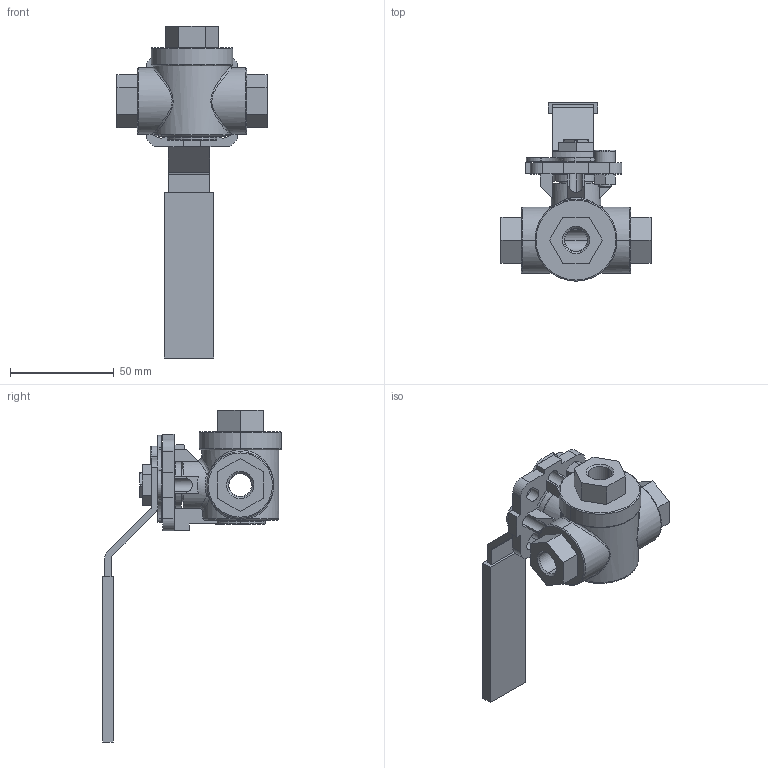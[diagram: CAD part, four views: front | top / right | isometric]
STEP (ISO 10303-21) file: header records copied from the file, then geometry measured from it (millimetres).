
FILE_DESCRIPTION (( 'STEP AP214' ), '1' );
FILE_NAME ('S57D DN08 G1_4 HB FB.STEP', '2013-07-01T07:06:04', ( 'Jan' ), ( '' ), 'SwSTEP 2.0', 'SolidWorks 2011', '' );
FILE_SCHEMA (( 'AUTOMOTIVE_DESIGN' ));
Length unit declared in the file: millimetre
Products named in the file (5): hex nut style 1 gradeab_din_Hexagon Nut ISO 4032 - M6 - D - N; socket head cap screw_din_DIN 912 M6 x 12 --- 12N; S57D Hendel DN10 FB; S57D DN08-G1_4 FB; S57D DN08 G1_4 HB FB
Assembly tree (4 placements, depth 2):
  S57D DN08 G1_4 HB FB
    hex nut style 1 gradeab_din_Hexagon Nut ISO 4032 - M6 - D - N
    socket head cap screw_din_DIN 912 M6 x 12 --- 12N
    S57D DN08-G1_4 FB
    S57D Hendel DN10 FB
Bounding box: 72.5 x 86.23 x 160.38 mm (x, y, z)
Volume: 100089.8 mm3; surface area: 33408.7 mm2
Topology: 4 solids, 4 shells, 339 faces, 873 edges, 545 vertices
Faces by surface type: plane 179, cylinder 87, cone 32, bspline 21, torus 20
Entity records: 12401 total; most frequent: CARTESIAN_POINT 3791, ORIENTED_EDGE 1742, DIRECTION 1715, EDGE_CURVE 871, AXIS2_PLACEMENT_3D 607, VERTEX_POINT 545, LINE 501, VECTOR 501
